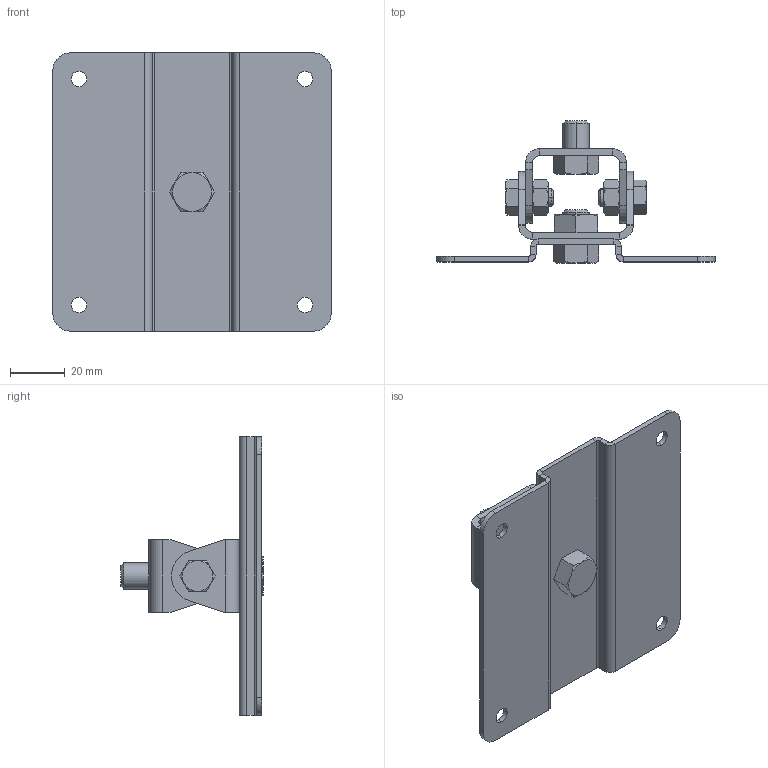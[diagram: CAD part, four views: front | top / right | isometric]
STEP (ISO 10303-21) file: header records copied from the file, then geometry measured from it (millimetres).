
FILE_DESCRIPTION (( 'STEP AP214' ), '1' );
FILE_NAME ('PMB-4X4.STEP', '2018-04-02T18:45:20', ( '' ), ( '' ), 'SwSTEP 2.0', 'SolidWorks 2016', '' );
FILE_SCHEMA (( 'AUTOMOTIVE_DESIGN' ));
Length unit declared in the file: inch
Products named in the file (8): hex bolt_ai_HBOLT 0.3750-16x0.5x0.5-N; machine screw nut hex_ai_MSHXNUT 0.375-16-S-N; hex bolt_ai_HBOLT 0.2500-20x0.5x0.5-N; hex nut_ai_HNUT 0.2500-20-D-N; Bracket 3_Inner; Bracket 3; PMB Base Plate; PMB-4X4
Assembly tree (10 placements, depth 2):
  PMB-4X4
    PMB Base Plate
    Bracket 3
    Bracket 3_Inner
    hex nut_ai_HNUT 0.2500-20-D-N  x2
    hex bolt_ai_HBOLT 0.2500-20x0.5x0.5-N  x2
    machine screw nut hex_ai_MSHXNUT 0.375-16-S-N
    hex bolt_ai_HBOLT 0.3750-16x0.5x0.5-N  x2
Bounding box: 101.6 x 51.89 x 101.6 mm (x, y, z)
Volume: 38200 mm3; surface area: 36729.5 mm2
Topology: 10 solids, 10 shells, 272 faces, 600 edges, 352 vertices
Faces by surface type: plane 130, cone 74, cylinder 68
Entity records: 6272 total; most frequent: CARTESIAN_POINT 1289, DIRECTION 996, ORIENTED_EDGE 920, EDGE_CURVE 460, AXIS2_PLACEMENT_3D 377, VERTEX_POINT 270, LINE 242, VECTOR 242
